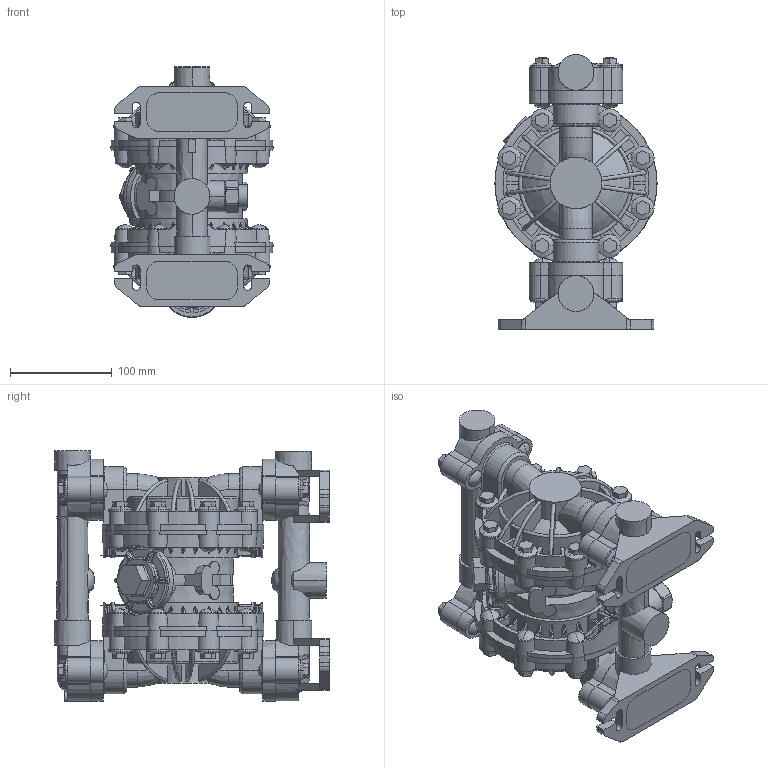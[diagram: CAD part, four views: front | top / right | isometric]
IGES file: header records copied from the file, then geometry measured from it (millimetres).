
Start section:  PTC IGES file: 24g745-en-g.igs
Global section: file name: 24g745-en-g.igs; native system: Creo Parametric by PTC Inc.; preprocessor: 2019030; author: qusrh3; organization: Unknown; date: 20191231.171059; units: inch
Bounding box: 159.18 x 269.43 x 245.99 mm (x, y, z)
Surface area: 653998.4 mm2 (no closed solid volume)
Topology: 0 solids, 0 shells, 2759 faces, 15240 edges, 15192 vertices
Faces by surface type: bspline 1409, revolution 1322, extrusion 28
